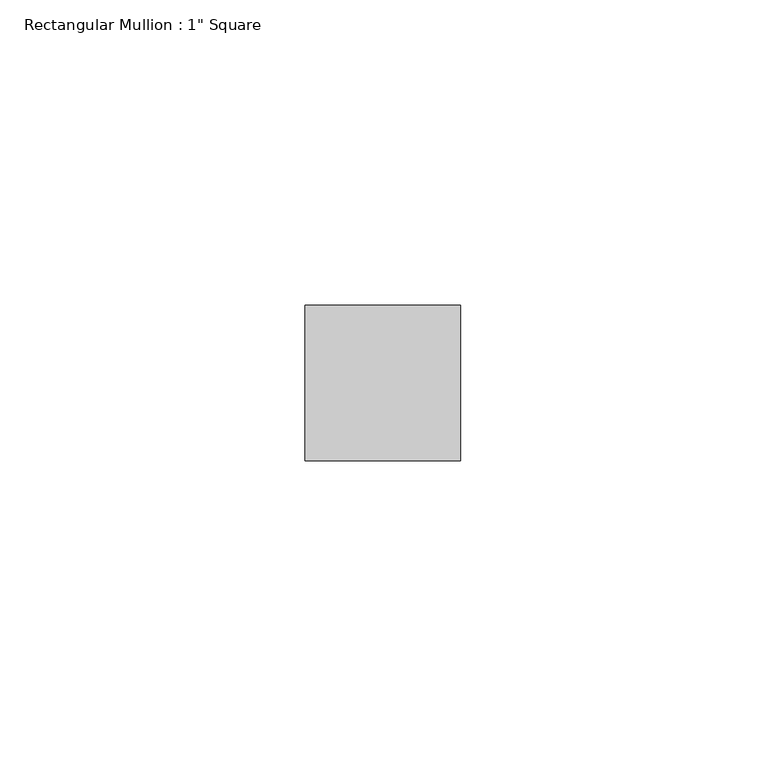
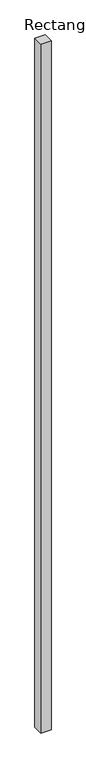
"""IFC4 building model written with IfcOpenShell, lengths in millimetres: member geometry."""

from ifc_helpers import new_model, si_unit, frame, origin, place, context, project, spatial, polyline, outline, extrude, source, transform, mapped, element, save


def member_cb0bb3a9(model_context):
    return source(origin(), model_context, "Body", "SweptSolid", [
        extrude(outline(polyline([(12.7, 12.7), (12.7, -12.7), (-12.7, -12.7), (-12.7, 12.7), (12.7, 12.7)])), frame((0.0, 0.0, -1812.6000345), z_axis=(0.0, 0.0, 1.0), x_axis=(1.0, 0.0, 0.0)), (0.0, 0.0, 1.0), 1812.6000345),
    ])


if __name__ == "__main__":
    model = new_model("IFC4")
    model_context = context("Model", 3, world=origin())
    ifc_project = project(units=[si_unit("LENGTHUNIT", "METRE", prefix="MILLI")], contexts=[model_context])
    site = spatial("IfcSite", under=ifc_project)
    building = spatial("IfcBuilding", under=site)
    placement = place(None, origin())
    member_shape = member_cb0bb3a9(model_context)
    element("IfcMember", 1, ObjectType="Rectangular Mullion : 1\" Square", at=placement, inside=building, context=model_context, shape_type="MappedRepresentation", body=[
        mapped(member_shape, transform((0.0, 0.0, 0.0), x_axis=(1.0, 0.0, 0.0), y_axis=(0.0, 1.0, 0.0), z_axis=(0.0, 0.0, 1.0))),
    ])
    save(model, "model.ifc")
